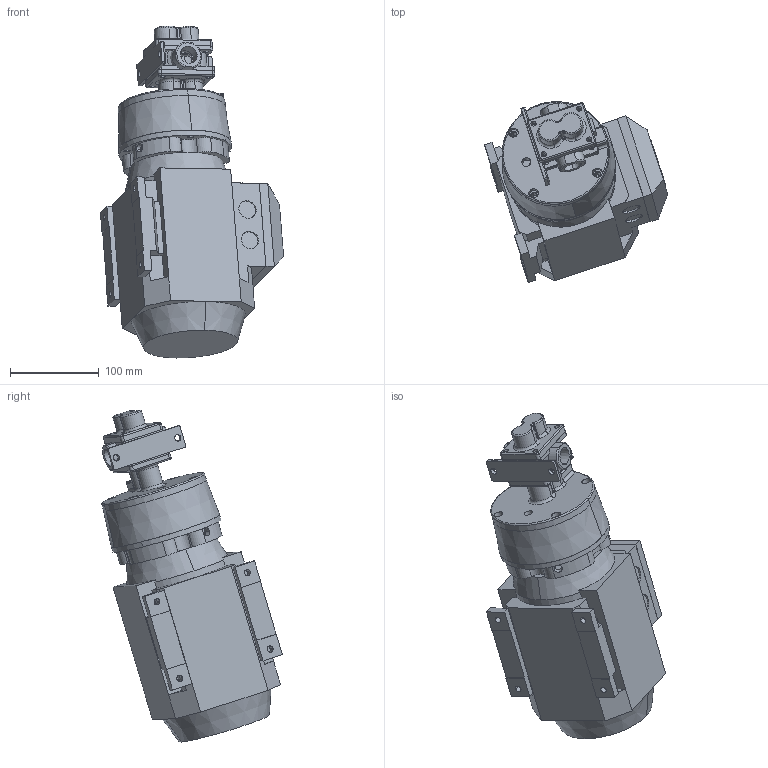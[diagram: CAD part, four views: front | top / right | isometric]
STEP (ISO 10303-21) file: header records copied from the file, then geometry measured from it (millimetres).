
FILE_DESCRIPTION (( 'STEP AP214' ), '1' );
FILE_NAME ('GMC4 FNPT IEC71 MOTOR.STEP', '2025-08-29T17:22:49', ( '' ), ( '' ), 'SwSTEP 2.0', 'SolidWorks 2024', '' );
FILE_SCHEMA (( 'AUTOMOTIVE_DESIGN' ));
Length unit declared in the file: inch
Products named in the file (1): GMC4 FNPT IEC71 MOTOR
Bounding box: 205.83 x 203.12 x 373.09 mm (x, y, z)
Volume: 3843778.4 mm3; surface area: 313558.3 mm2
Topology: 6 solids, 6 shells, 785 faces, 2004 edges, 1263 vertices
Faces by surface type: cylinder 356, plane 278, cone 66, torus 47, bspline 24, sphere 14
Entity records: 25869 total; most frequent: CARTESIAN_POINT 6250, DIRECTION 4287, ORIENTED_EDGE 3948, EDGE_CURVE 1974, AXIS2_PLACEMENT_3D 1658, VERTEX_POINT 1263, VECTOR 971, LINE 971
